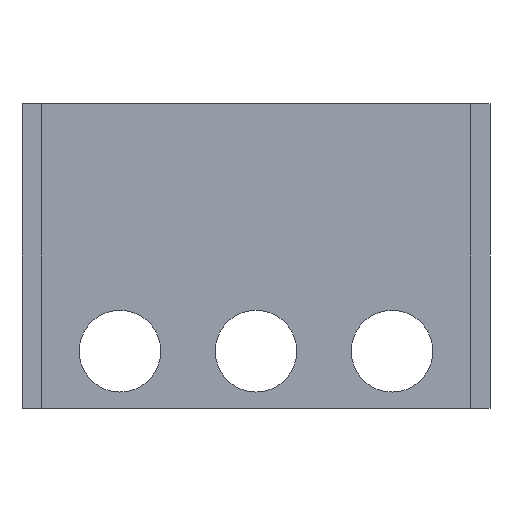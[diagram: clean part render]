
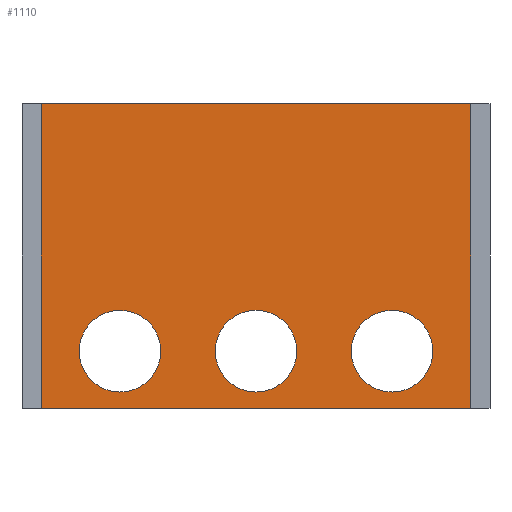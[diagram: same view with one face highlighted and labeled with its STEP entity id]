
A CAD part, front view. The second image highlights one B-rep face of the part: STEP entity #1110.
In plain terms, the highlighted planar face has unit normal (0, -1, 0).
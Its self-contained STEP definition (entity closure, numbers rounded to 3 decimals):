
#32 = PLANE('',#33);
#33 = AXIS2_PLACEMENT_3D('',#34,#35,#36);
#34 = CARTESIAN_POINT('',(-15.8,23.5,27.6));
#35 = DIRECTION('',(0.,0.,1.));
#36 = DIRECTION('',(1.,0.,0.));
#255 = VERTEX_POINT('',#256);
#256 = CARTESIAN_POINT('',(-15.8,23.5,27.6));
#270 = PLANE('',#271);
#271 = AXIS2_PLACEMENT_3D('',#272,#273,#274);
#272 = CARTESIAN_POINT('',(-15.8,23.5,5.2));
#273 = DIRECTION('',(1.,0.,0.));
#274 = DIRECTION('',(0.,0.,1.));
#282 = EDGE_CURVE('',#255,#283,#285,.T.);
#283 = VERTEX_POINT('',#284);
#284 = CARTESIAN_POINT('',(15.8,23.5,27.6));
#285 = SURFACE_CURVE('',#286,(#290,#297),.PCURVE_S1.);
#286 = LINE('',#287,#288);
#287 = CARTESIAN_POINT('',(-15.8,23.5,27.6));
#288 = VECTOR('',#289,1.);
#289 = DIRECTION('',(1.,0.,0.));
#290 = PCURVE('',#32,#291);
#291 = DEFINITIONAL_REPRESENTATION('',(#292),#296);
#292 = LINE('',#293,#294);
#293 = CARTESIAN_POINT('',(0.,0.));
#294 = VECTOR('',#295,1.);
#295 = DIRECTION('',(1.,0.));
#296 = ( GEOMETRIC_REPRESENTATION_CONTEXT(2) 
PARAMETRIC_REPRESENTATION_CONTEXT() REPRESENTATION_CONTEXT('2D SPACE',''
  ) );
#297 = PCURVE('',#298,#303);
#298 = PLANE('',#299);
#299 = AXIS2_PLACEMENT_3D('',#300,#301,#302);
#300 = CARTESIAN_POINT('',(-15.8,23.5,5.2));
#301 = DIRECTION('',(0.,1.,0.));
#302 = DIRECTION('',(0.,0.,1.));
#303 = DEFINITIONAL_REPRESENTATION('',(#304),#308);
#304 = LINE('',#305,#306);
#305 = CARTESIAN_POINT('',(22.4,0.));
#306 = VECTOR('',#307,1.);
#307 = DIRECTION('',(0.,1.));
#308 = ( GEOMETRIC_REPRESENTATION_CONTEXT(2) 
PARAMETRIC_REPRESENTATION_CONTEXT() REPRESENTATION_CONTEXT('2D SPACE',''
  ) );
#326 = PLANE('',#327);
#327 = AXIS2_PLACEMENT_3D('',#328,#329,#330);
#328 = CARTESIAN_POINT('',(15.8,23.5,5.2));
#329 = DIRECTION('',(1.,0.,0.));
#330 = DIRECTION('',(0.,0.,1.));
#591 = PLANE('',#592);
#592 = AXIS2_PLACEMENT_3D('',#593,#594,#595);
#593 = CARTESIAN_POINT('',(-15.8,23.5,5.2));
#594 = DIRECTION('',(0.,0.,1.));
#595 = DIRECTION('',(1.,0.,0.));
#993 = EDGE_CURVE('',#994,#283,#996,.T.);
#994 = VERTEX_POINT('',#995);
#995 = CARTESIAN_POINT('',(15.8,23.5,5.2));
#996 = SURFACE_CURVE('',#997,(#1001,#1008),.PCURVE_S1.);
#997 = LINE('',#998,#999);
#998 = CARTESIAN_POINT('',(15.8,23.5,5.2));
#999 = VECTOR('',#1000,1.);
#1000 = DIRECTION('',(0.,0.,1.));
#1001 = PCURVE('',#326,#1002);
#1002 = DEFINITIONAL_REPRESENTATION('',(#1003),#1007);
#1003 = LINE('',#1004,#1005);
#1004 = CARTESIAN_POINT('',(0.,0.));
#1005 = VECTOR('',#1006,1.);
#1006 = DIRECTION('',(1.,0.));
#1007 = ( GEOMETRIC_REPRESENTATION_CONTEXT(2) 
PARAMETRIC_REPRESENTATION_CONTEXT() REPRESENTATION_CONTEXT('2D SPACE',''
  ) );
#1008 = PCURVE('',#298,#1009);
#1009 = DEFINITIONAL_REPRESENTATION('',(#1010),#1014);
#1010 = LINE('',#1011,#1012);
#1011 = CARTESIAN_POINT('',(0.,31.6));
#1012 = VECTOR('',#1013,1.);
#1013 = DIRECTION('',(1.,0.));
#1014 = ( GEOMETRIC_REPRESENTATION_CONTEXT(2) 
PARAMETRIC_REPRESENTATION_CONTEXT() REPRESENTATION_CONTEXT('2D SPACE',''
  ) );
#1110 = ADVANCED_FACE('',(#1111,#1159,#1194,#1229),#298,.F.);
#1111 = FACE_BOUND('',#1112,.F.);
#1112 = EDGE_LOOP('',(#1113,#1136,#1157,#1158));
#1113 = ORIENTED_EDGE('',*,*,#1114,.F.);
#1114 = EDGE_CURVE('',#1115,#994,#1117,.T.);
#1115 = VERTEX_POINT('',#1116);
#1116 = CARTESIAN_POINT('',(-15.8,23.5,5.2));
#1117 = SURFACE_CURVE('',#1118,(#1122,#1129),.PCURVE_S1.);
#1118 = LINE('',#1119,#1120);
#1119 = CARTESIAN_POINT('',(-15.8,23.5,5.2));
#1120 = VECTOR('',#1121,1.);
#1121 = DIRECTION('',(1.,0.,0.));
#1122 = PCURVE('',#298,#1123);
#1123 = DEFINITIONAL_REPRESENTATION('',(#1124),#1128);
#1124 = LINE('',#1125,#1126);
#1125 = CARTESIAN_POINT('',(0.,0.));
#1126 = VECTOR('',#1127,1.);
#1127 = DIRECTION('',(0.,1.));
#1128 = ( GEOMETRIC_REPRESENTATION_CONTEXT(2) 
PARAMETRIC_REPRESENTATION_CONTEXT() REPRESENTATION_CONTEXT('2D SPACE',''
  ) );
#1129 = PCURVE('',#591,#1130);
#1130 = DEFINITIONAL_REPRESENTATION('',(#1131),#1135);
#1131 = LINE('',#1132,#1133);
#1132 = CARTESIAN_POINT('',(0.,0.));
#1133 = VECTOR('',#1134,1.);
#1134 = DIRECTION('',(1.,0.));
#1135 = ( GEOMETRIC_REPRESENTATION_CONTEXT(2) 
PARAMETRIC_REPRESENTATION_CONTEXT() REPRESENTATION_CONTEXT('2D SPACE',''
  ) );
#1136 = ORIENTED_EDGE('',*,*,#1137,.T.);
#1137 = EDGE_CURVE('',#1115,#255,#1138,.T.);
#1138 = SURFACE_CURVE('',#1139,(#1143,#1150),.PCURVE_S1.);
#1139 = LINE('',#1140,#1141);
#1140 = CARTESIAN_POINT('',(-15.8,23.5,5.2));
#1141 = VECTOR('',#1142,1.);
#1142 = DIRECTION('',(0.,0.,1.));
#1143 = PCURVE('',#298,#1144);
#1144 = DEFINITIONAL_REPRESENTATION('',(#1145),#1149);
#1145 = LINE('',#1146,#1147);
#1146 = CARTESIAN_POINT('',(0.,0.));
#1147 = VECTOR('',#1148,1.);
#1148 = DIRECTION('',(1.,0.));
#1149 = ( GEOMETRIC_REPRESENTATION_CONTEXT(2) 
PARAMETRIC_REPRESENTATION_CONTEXT() REPRESENTATION_CONTEXT('2D SPACE',''
  ) );
#1150 = PCURVE('',#270,#1151);
#1151 = DEFINITIONAL_REPRESENTATION('',(#1152),#1156);
#1152 = LINE('',#1153,#1154);
#1153 = CARTESIAN_POINT('',(0.,0.));
#1154 = VECTOR('',#1155,1.);
#1155 = DIRECTION('',(1.,0.));
#1156 = ( GEOMETRIC_REPRESENTATION_CONTEXT(2) 
PARAMETRIC_REPRESENTATION_CONTEXT() REPRESENTATION_CONTEXT('2D SPACE',''
  ) );
#1157 = ORIENTED_EDGE('',*,*,#282,.T.);
#1158 = ORIENTED_EDGE('',*,*,#993,.F.);
#1159 = FACE_BOUND('',#1160,.F.);
#1160 = EDGE_LOOP('',(#1161));
#1161 = ORIENTED_EDGE('',*,*,#1162,.T.);
#1162 = EDGE_CURVE('',#1163,#1163,#1165,.T.);
#1163 = VERTEX_POINT('',#1164);
#1164 = CARTESIAN_POINT('',(-7.,23.5,9.4));
#1165 = SURFACE_CURVE('',#1166,(#1171,#1182),.PCURVE_S1.);
#1166 = CIRCLE('',#1167,3.);
#1167 = AXIS2_PLACEMENT_3D('',#1168,#1169,#1170);
#1168 = CARTESIAN_POINT('',(-10.,23.5,9.4));
#1169 = DIRECTION('',(0.,-1.,0.));
#1170 = DIRECTION('',(1.,0.,0.));
#1171 = PCURVE('',#298,#1172);
#1172 = DEFINITIONAL_REPRESENTATION('',(#1173),#1181);
#1173 = ( BOUNDED_CURVE() B_SPLINE_CURVE(2,(#1174,#1175,#1176,#1177,
#1178,#1179,#1180),.UNSPECIFIED.,.T.,.F.) B_SPLINE_CURVE_WITH_KNOTS((1,2
    ,2,2,2,1),(-2.094,0.,2.094,4.189,
6.283,8.378),.UNSPECIFIED.) CURVE() 
GEOMETRIC_REPRESENTATION_ITEM() RATIONAL_B_SPLINE_CURVE((1.,0.5,1.,0.5,
1.,0.5,1.)) REPRESENTATION_ITEM('') );
#1174 = CARTESIAN_POINT('',(4.2,8.8));
#1175 = CARTESIAN_POINT('',(9.396,8.8));
#1176 = CARTESIAN_POINT('',(6.798,4.3));
#1177 = CARTESIAN_POINT('',(4.2,-0.2));
#1178 = CARTESIAN_POINT('',(1.602,4.3));
#1179 = CARTESIAN_POINT('',(-0.996,8.8));
#1180 = CARTESIAN_POINT('',(4.2,8.8));
#1181 = ( GEOMETRIC_REPRESENTATION_CONTEXT(2) 
PARAMETRIC_REPRESENTATION_CONTEXT() REPRESENTATION_CONTEXT('2D SPACE',''
  ) );
#1182 = PCURVE('',#1183,#1188);
#1183 = CYLINDRICAL_SURFACE('',#1184,3.);
#1184 = AXIS2_PLACEMENT_3D('',#1185,#1186,#1187);
#1185 = CARTESIAN_POINT('',(-10.,22.,9.4));
#1186 = DIRECTION('',(0.,-1.,0.));
#1187 = DIRECTION('',(1.,0.,0.));
#1188 = DEFINITIONAL_REPRESENTATION('',(#1189),#1193);
#1189 = LINE('',#1190,#1191);
#1190 = CARTESIAN_POINT('',(0.,-1.5));
#1191 = VECTOR('',#1192,1.);
#1192 = DIRECTION('',(1.,0.));
#1193 = ( GEOMETRIC_REPRESENTATION_CONTEXT(2) 
PARAMETRIC_REPRESENTATION_CONTEXT() REPRESENTATION_CONTEXT('2D SPACE',''
  ) );
#1194 = FACE_BOUND('',#1195,.F.);
#1195 = EDGE_LOOP('',(#1196));
#1196 = ORIENTED_EDGE('',*,*,#1197,.T.);
#1197 = EDGE_CURVE('',#1198,#1198,#1200,.T.);
#1198 = VERTEX_POINT('',#1199);
#1199 = CARTESIAN_POINT('',(3.,23.5,9.4));
#1200 = SURFACE_CURVE('',#1201,(#1206,#1217),.PCURVE_S1.);
#1201 = CIRCLE('',#1202,3.);
#1202 = AXIS2_PLACEMENT_3D('',#1203,#1204,#1205);
#1203 = CARTESIAN_POINT('',(0.,23.5,9.4));
#1204 = DIRECTION('',(0.,-1.,0.));
#1205 = DIRECTION('',(1.,0.,0.));
#1206 = PCURVE('',#298,#1207);
#1207 = DEFINITIONAL_REPRESENTATION('',(#1208),#1216);
#1208 = ( BOUNDED_CURVE() B_SPLINE_CURVE(2,(#1209,#1210,#1211,#1212,
#1213,#1214,#1215),.UNSPECIFIED.,.T.,.F.) B_SPLINE_CURVE_WITH_KNOTS((1,2
    ,2,2,2,1),(-2.094,0.,2.094,4.189,
6.283,8.378),.UNSPECIFIED.) CURVE() 
GEOMETRIC_REPRESENTATION_ITEM() RATIONAL_B_SPLINE_CURVE((1.,0.5,1.,0.5,
1.,0.5,1.)) REPRESENTATION_ITEM('') );
#1209 = CARTESIAN_POINT('',(4.2,18.8));
#1210 = CARTESIAN_POINT('',(9.396,18.8));
#1211 = CARTESIAN_POINT('',(6.798,14.3));
#1212 = CARTESIAN_POINT('',(4.2,9.8));
#1213 = CARTESIAN_POINT('',(1.602,14.3));
#1214 = CARTESIAN_POINT('',(-0.996,18.8));
#1215 = CARTESIAN_POINT('',(4.2,18.8));
#1216 = ( GEOMETRIC_REPRESENTATION_CONTEXT(2) 
PARAMETRIC_REPRESENTATION_CONTEXT() REPRESENTATION_CONTEXT('2D SPACE',''
  ) );
#1217 = PCURVE('',#1218,#1223);
#1218 = CYLINDRICAL_SURFACE('',#1219,3.);
#1219 = AXIS2_PLACEMENT_3D('',#1220,#1221,#1222);
#1220 = CARTESIAN_POINT('',(0.,22.,9.4));
#1221 = DIRECTION('',(0.,-1.,0.));
#1222 = DIRECTION('',(1.,0.,0.));
#1223 = DEFINITIONAL_REPRESENTATION('',(#1224),#1228);
#1224 = LINE('',#1225,#1226);
#1225 = CARTESIAN_POINT('',(0.,-1.5));
#1226 = VECTOR('',#1227,1.);
#1227 = DIRECTION('',(1.,0.));
#1228 = ( GEOMETRIC_REPRESENTATION_CONTEXT(2) 
PARAMETRIC_REPRESENTATION_CONTEXT() REPRESENTATION_CONTEXT('2D SPACE',''
  ) );
#1229 = FACE_BOUND('',#1230,.F.);
#1230 = EDGE_LOOP('',(#1231));
#1231 = ORIENTED_EDGE('',*,*,#1232,.T.);
#1232 = EDGE_CURVE('',#1233,#1233,#1235,.T.);
#1233 = VERTEX_POINT('',#1234);
#1234 = CARTESIAN_POINT('',(13.,23.5,9.4));
#1235 = SURFACE_CURVE('',#1236,(#1241,#1252),.PCURVE_S1.);
#1236 = CIRCLE('',#1237,3.);
#1237 = AXIS2_PLACEMENT_3D('',#1238,#1239,#1240);
#1238 = CARTESIAN_POINT('',(10.,23.5,9.4));
#1239 = DIRECTION('',(0.,-1.,0.));
#1240 = DIRECTION('',(1.,0.,0.));
#1241 = PCURVE('',#298,#1242);
#1242 = DEFINITIONAL_REPRESENTATION('',(#1243),#1251);
#1243 = ( BOUNDED_CURVE() B_SPLINE_CURVE(2,(#1244,#1245,#1246,#1247,
#1248,#1249,#1250),.UNSPECIFIED.,.T.,.F.) B_SPLINE_CURVE_WITH_KNOTS((1,2
    ,2,2,2,1),(-2.094,0.,2.094,4.189,
6.283,8.378),.UNSPECIFIED.) CURVE() 
GEOMETRIC_REPRESENTATION_ITEM() RATIONAL_B_SPLINE_CURVE((1.,0.5,1.,0.5,
1.,0.5,1.)) REPRESENTATION_ITEM('') );
#1244 = CARTESIAN_POINT('',(4.2,28.8));
#1245 = CARTESIAN_POINT('',(9.396,28.8));
#1246 = CARTESIAN_POINT('',(6.798,24.3));
#1247 = CARTESIAN_POINT('',(4.2,19.8));
#1248 = CARTESIAN_POINT('',(1.602,24.3));
#1249 = CARTESIAN_POINT('',(-0.996,28.8));
#1250 = CARTESIAN_POINT('',(4.2,28.8));
#1251 = ( GEOMETRIC_REPRESENTATION_CONTEXT(2) 
PARAMETRIC_REPRESENTATION_CONTEXT() REPRESENTATION_CONTEXT('2D SPACE',''
  ) );
#1252 = PCURVE('',#1253,#1258);
#1253 = CYLINDRICAL_SURFACE('',#1254,3.);
#1254 = AXIS2_PLACEMENT_3D('',#1255,#1256,#1257);
#1255 = CARTESIAN_POINT('',(10.,22.,9.4));
#1256 = DIRECTION('',(0.,-1.,0.));
#1257 = DIRECTION('',(1.,0.,0.));
#1258 = DEFINITIONAL_REPRESENTATION('',(#1259),#1263);
#1259 = LINE('',#1260,#1261);
#1260 = CARTESIAN_POINT('',(0.,-1.5));
#1261 = VECTOR('',#1262,1.);
#1262 = DIRECTION('',(1.,0.));
#1263 = ( GEOMETRIC_REPRESENTATION_CONTEXT(2) 
PARAMETRIC_REPRESENTATION_CONTEXT() REPRESENTATION_CONTEXT('2D SPACE',''
  ) );
